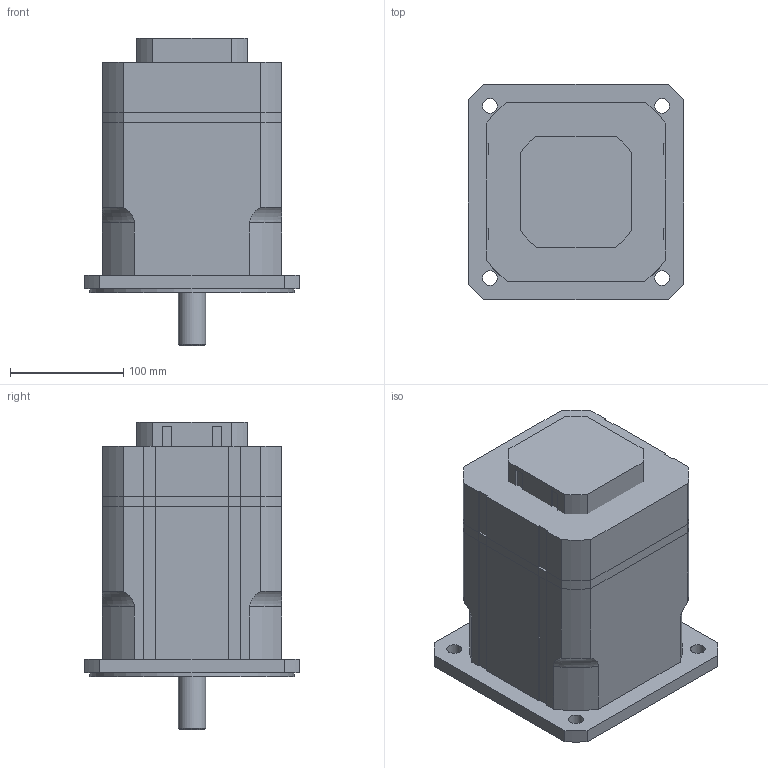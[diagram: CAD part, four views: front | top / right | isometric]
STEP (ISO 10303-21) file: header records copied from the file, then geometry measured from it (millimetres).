
FILE_DESCRIPTION(/* description */ ('Alibre Inc.'),/* implementation_level */ '2;1');
FILE_NAME(/* name */ 'export0',/* time_stamp */ '2011-12-07T09:05:48+01:00',/* author */ (''),/* organization */ (''),/* preprocessor_version */ 'ST-DEVELOPER v12',/* originating_system */ 'Alibre',/* authorisation */ '');
FILE_SCHEMA (('ALIBRE_SCHEMA','CONFIG_CONTROL_DESIGN'));
Length unit declared in the file: millimetre
Products named in the file (5): ID_1
Bounding box: 190 x 190 x 271 mm (x, y, z)
Volume: 5826468.9 mm3; surface area: 307126.5 mm2
Topology: 4 solids, 4 shells, 167 faces, 443 edges, 293 vertices
Faces by surface type: plane 82, cylinder 73, cone 7, torus 4, bspline 1
Full cylindrical faces by diameter (mm): 2.7 x4, 6.647 x1, 13 x4, 20 x5, 22 x2, 24 x1, 25 x1, 180 x1
Entity records: 19996 total; most frequent: CARTESIAN_POINT 4341, ORIENTED_EDGE 2552, DIRECTION 2517, EDGE_CURVE 1276, AXIS2_PLACEMENT_3D 954, VERTEX_POINT 896, VECTOR 884, LINE 846
